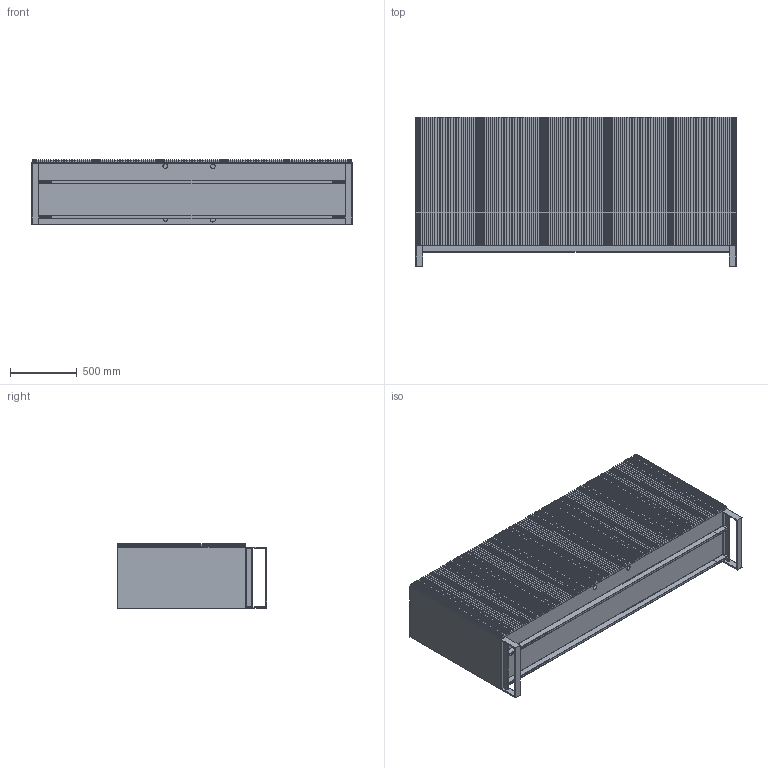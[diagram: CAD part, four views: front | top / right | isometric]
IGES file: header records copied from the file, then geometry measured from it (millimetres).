
Start section: SolidWorks IGES file using analytic representation for surfaces
Global section: file name: C:\Users\serena.trevisiol\Desktop\Nuova cartella\CARLOS cm 240X49X112H.IGS; native system: SolidWorks 2016; preprocessor: SolidWorks 2016; author: serena.trevisiol; date: 160609.090917; units: millimetre
Bounding box: 2400 x 1120 x 484 mm (x, y, z)
Surface area: 26901018.9 mm2 (no closed solid volume)
Topology: 0 solids, 0 shells, 1808 faces, 10250 edges, 10242 vertices
Faces by surface type: bspline 1720, revolution 88
